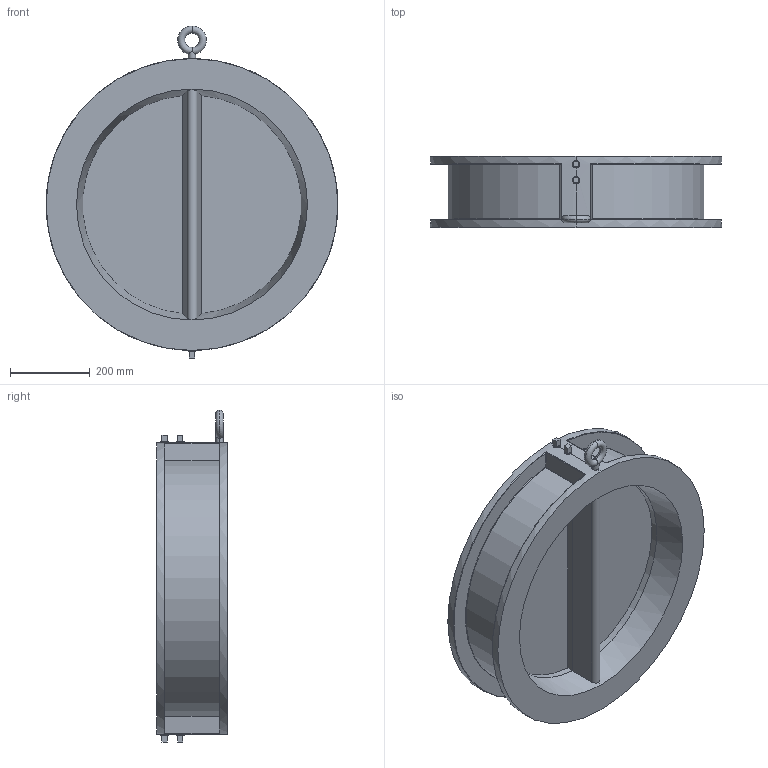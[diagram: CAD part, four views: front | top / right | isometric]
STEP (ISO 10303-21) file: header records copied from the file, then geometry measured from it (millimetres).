
FILE_DESCRIPTION (( 'STEP AP203' ), '1' );
FILE_NAME ('D6_DN600.STEP', '2012-09-21T13:09:29', ( 'luca.saino' ), ( 'Hewlett-Packard Company' ), 'SwSTEP 2.0', 'SolidWorks 2012', '' );
FILE_SCHEMA (( 'CONFIG_CONTROL_DESIGN' ));
Length unit declared in the file: millimetre
Products named in the file (1): D6_DN600
Bounding box: 733 x 178 x 834 mm (x, y, z)
Volume: 21372973.1 mm3; surface area: 1917799.2 mm2
Topology: 1 solids, 1 shells, 168 faces, 417 edges, 243 vertices
Faces by surface type: plane 83, cylinder 55, torus 12, sphere 8, bspline 8, cone 2
Entity records: 6312 total; most frequent: CARTESIAN_POINT 2365, ORIENTED_EDGE 818, DIRECTION 797, EDGE_CURVE 409, AXIS2_PLACEMENT_3D 295, VERTEX_POINT 243, VECTOR 207, LINE 207
